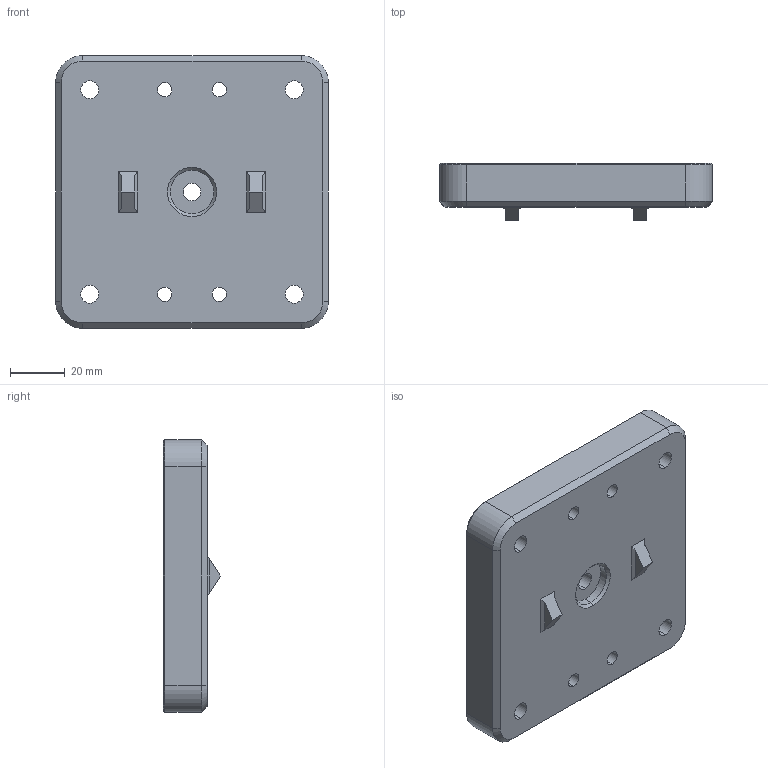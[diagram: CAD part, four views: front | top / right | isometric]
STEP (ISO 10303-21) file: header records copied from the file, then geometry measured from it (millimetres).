
FILE_DESCRIPTION (( 'STEP AP203' ), '1' );
FILE_NAME ('BaseSled.STEP', '2025-03-11T00:33:59', ( '' ), ( '' ), 'SwSTEP 2.0', 'SolidWorks 2024', '' );
FILE_SCHEMA (( 'CONFIG_CONTROL_DESIGN' ));
Length unit declared in the file: millimetre
Products named in the file (1): BaseSled
Bounding box: 100 x 21 x 100 mm (x, y, z)
Volume: 150393.7 mm3; surface area: 28455 mm2
Topology: 1 solids, 1 shells, 94 faces, 216 edges, 132 vertices
Faces by surface type: cylinder 34, plane 32, cone 28
Entity records: 2759 total; most frequent: DIRECTION 502, CARTESIAN_POINT 443, ORIENTED_EDGE 432, EDGE_CURVE 216, AXIS2_PLACEMENT_3D 191, VERTEX_POINT 132, LINE 120, VECTOR 120
